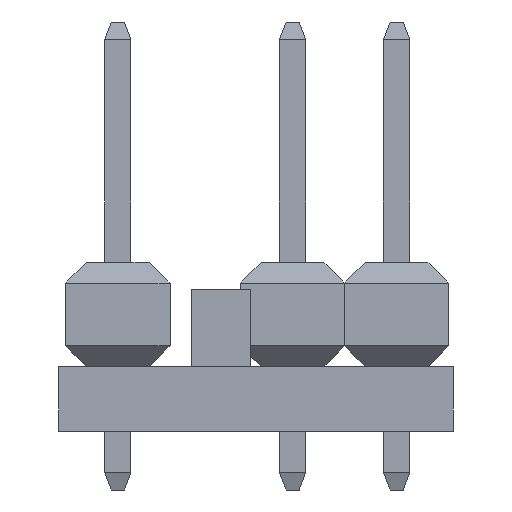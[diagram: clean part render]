
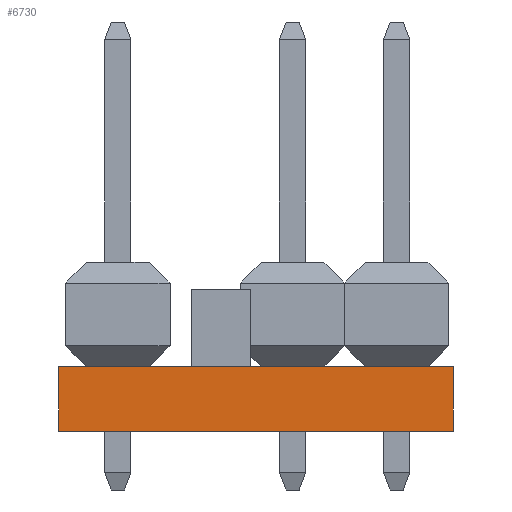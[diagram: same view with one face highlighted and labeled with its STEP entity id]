
A CAD part, left-side view. The second image highlights one B-rep face of the part: STEP entity #6730.
In plain terms, the highlighted planar face has unit normal (-1, 0, 0).
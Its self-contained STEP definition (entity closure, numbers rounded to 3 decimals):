
#151=PLANE('',#7236);
#541=FACE_OUTER_BOUND('',#931,.T.);
#931=EDGE_LOOP('',(#4660,#4661,#4662,#4663));
#1419=LINE('',#9598,#2231);
#1427=LINE('',#9613,#2239);
#1428=LINE('',#9615,#2240);
#1429=LINE('',#9616,#2241);
#2231=VECTOR('',#7869,10.);
#2239=VECTOR('',#7881,10.);
#2240=VECTOR('',#7884,10.);
#2241=VECTOR('',#7885,10.);
#3157=VERTEX_POINT('',#9595);
#3158=VERTEX_POINT('',#9597);
#3162=VERTEX_POINT('',#9609);
#3163=VERTEX_POINT('',#9611);
#3723=EDGE_CURVE('',#3157,#3158,#1419,.T.);
#3731=EDGE_CURVE('',#3162,#3163,#1427,.T.);
#3732=EDGE_CURVE('',#3157,#3162,#1428,.T.);
#3733=EDGE_CURVE('',#3158,#3163,#1429,.T.);
#4660=ORIENTED_EDGE('',*,*,#3732,.T.);
#4661=ORIENTED_EDGE('',*,*,#3731,.T.);
#4662=ORIENTED_EDGE('',*,*,#3733,.F.);
#4663=ORIENTED_EDGE('',*,*,#3723,.F.);
#6730=ADVANCED_FACE('',(#541),#151,.T.);
#7236=AXIS2_PLACEMENT_3D('',#9614,#7882,#7883);
#7869=DIRECTION('',(0.,0.,1.));
#7881=DIRECTION('',(0.,0.,1.));
#7882=DIRECTION('center_axis',(-1.,0.,0.));
#7883=DIRECTION('ref_axis',(0.,-1.,0.));
#7884=DIRECTION('',(0.,-1.,0.));
#7885=DIRECTION('',(0.,-1.,0.));
#9595=CARTESIAN_POINT('',(0.2,9.8,0.));
#9597=CARTESIAN_POINT('',(0.2,9.8,1.57));
#9598=CARTESIAN_POINT('',(0.2,9.8,0.));
#9609=CARTESIAN_POINT('',(0.2,0.2,0.));
#9611=CARTESIAN_POINT('',(0.2,0.2,1.57));
#9613=CARTESIAN_POINT('',(0.2,0.2,0.));
#9614=CARTESIAN_POINT('Origin',(0.2,9.8,0.));
#9615=CARTESIAN_POINT('',(0.2,9.8,0.));
#9616=CARTESIAN_POINT('',(0.2,9.8,1.57));
